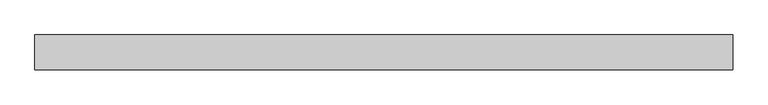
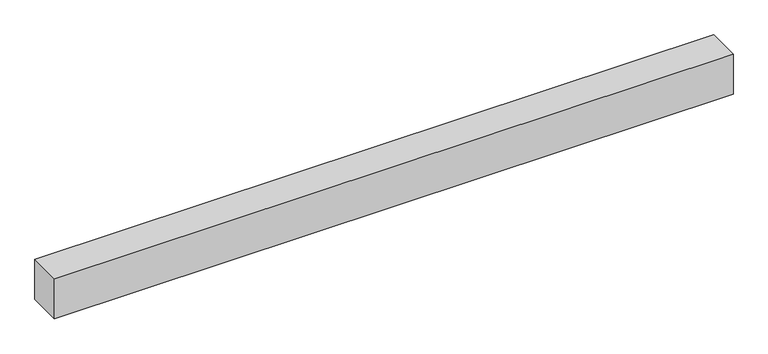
"""IFC4 building model written with IfcOpenShell, lengths in millimetres: proxy geometry, 族群1 : 族群1."""

from ifc_helpers import new_model, si_unit, origin, origin_with_axes, place, context, project, spatial, polyline, outline, extrude, source, transform, mapped, element, save


def generic_models_ddfe650f(model_context):
    return source(origin(), model_context, "Body", "SweptSolid", [
        extrude(outline(polyline([(4000.0, -100.0), (0.0, -100.0), (0.0, 100.0), (4000.0, 100.0), (4000.0, -100.0)])), origin_with_axes(), (0.0, 0.0, 1.0), 250.0),
    ])


if __name__ == "__main__":
    model = new_model("IFC4")
    model_context = context("Model", 3, world=origin())
    ifc_project = project(units=[si_unit("LENGTHUNIT", "METRE", prefix="MILLI")], contexts=[model_context])
    site = spatial("IfcSite", under=ifc_project)
    building = spatial("IfcBuilding", under=site)
    placement = place(None, origin())
    generic_models_shape = generic_models_ddfe650f(model_context)
    element("IfcBuildingElementProxy", 1, Name="族群1 : 族群1", ObjectType="族群1 : 族群1", at=placement, inside=building, context=model_context, shape_type="MappedRepresentation", body=[
        mapped(generic_models_shape, transform((0.0, 0.0, 0.0), x_axis=(1.0, 0.0, 0.0), y_axis=(0.0, 1.0, 0.0), z_axis=(0.0, 0.0, 1.0))),
    ])
    save(model, "model.ifc")
